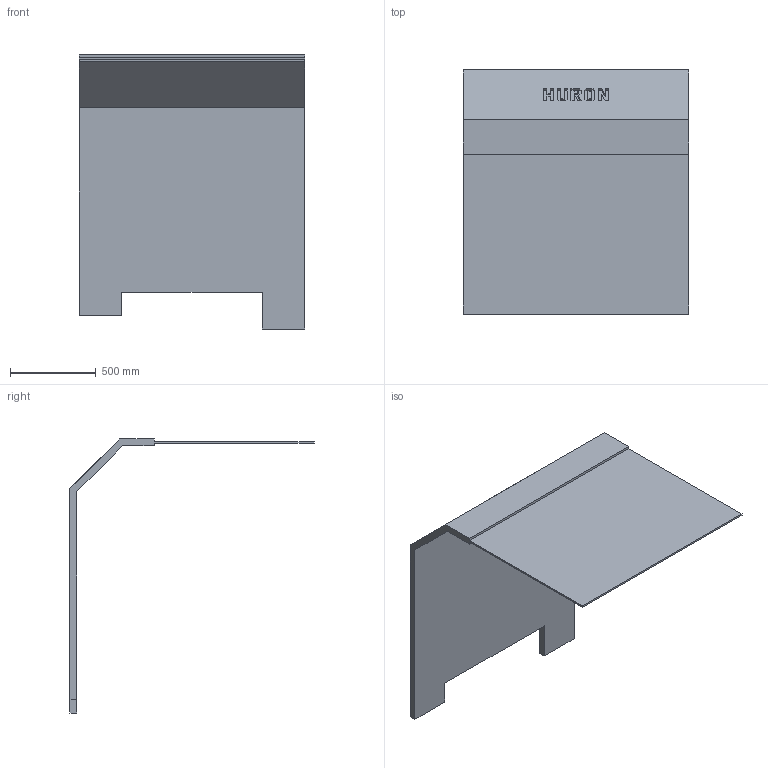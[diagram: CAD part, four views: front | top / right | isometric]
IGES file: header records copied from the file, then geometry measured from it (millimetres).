
Start section: START RECORD GO HERE.
Global section: file name: CU-guillotine.igs; native system: IBM CATIA IGES - CATIA Version 5 Release 11 ; preprocessor: CATIA Version 5 Release 11 ; author: mta; organization: MONTREUIL; date: 20031029.113809; units: millimetre
Bounding box: 1315 x 1425 x 1599 mm (x, y, z)
Surface area: 7334052.6 mm2 (no closed solid volume)
Topology: 0 solids, 0 shells, 84 faces, 450 edges, 450 vertices
Faces by surface type: plane 83, revolution 1
